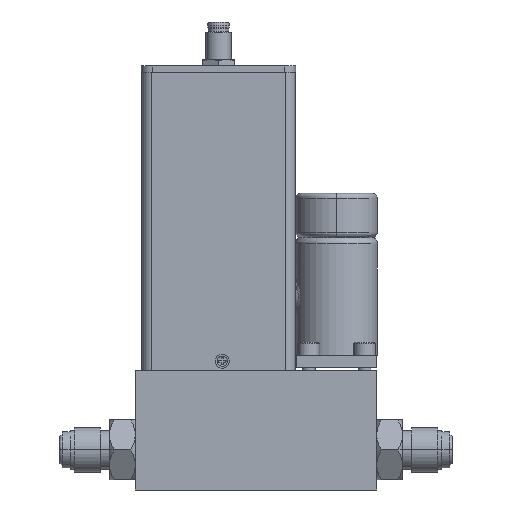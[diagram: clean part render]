
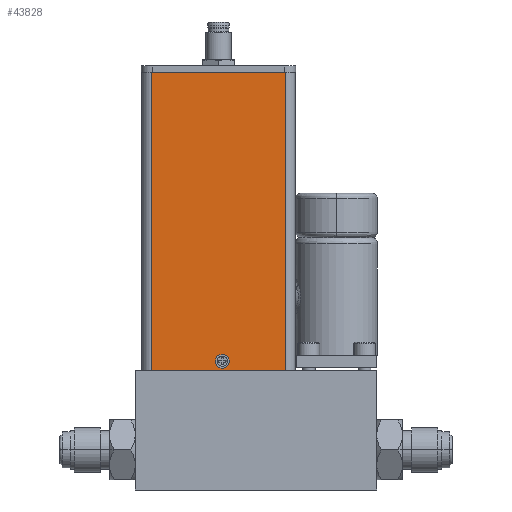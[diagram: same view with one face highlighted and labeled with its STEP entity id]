
A CAD part, front view. The second image highlights one B-rep face of the part: STEP entity #43828.
In plain terms, the highlighted planar face has unit normal (0, -1, 0).
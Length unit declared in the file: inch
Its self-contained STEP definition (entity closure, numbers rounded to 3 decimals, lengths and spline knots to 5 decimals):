
#9173 = EDGE_CURVE ( 'NONE', #198716, #66880, #59460, .T. ) ;
#13174 = PLANE ( 'NONE',  #23997 ) ;
#13809 = VECTOR ( 'NONE', #59724, 39.37008 ) ;
#16117 = DIRECTION ( 'NONE',  ( 0., -1., 0. ) ) ;
#19328 = EDGE_CURVE ( 'NONE', #97482, #191415, #35181, .T. ) ;
#23997 = AXIS2_PLACEMENT_3D ( 'NONE', #89932, #16117, #60457 ) ;
#24847 = CARTESIAN_POINT ( 'NONE',  ( 0.20236, 0.008, 5.19964 ) ) ;
#28531 = CARTESIAN_POINT ( 'NONE',  ( 1.85836, 0.008, 1.48511 ) ) ;
#28684 = EDGE_LOOP ( 'NONE', ( #139112, #199623 ) ) ;
#33894 = DIRECTION ( 'NONE',  ( 0., 0., 1. ) ) ;
#34167 = DIRECTION ( 'NONE',  ( -1., 0., 0. ) ) ;
#35181 = LINE ( 'NONE', #67479, #118116 ) ;
#43828 = ADVANCED_FACE ( 'NONE', ( #196097, #169859 ), #13174, .T. ) ;
#45124 = EDGE_LOOP ( 'NONE', ( #152514, #102462, #107705, #91724 ) ) ;
#58538 = EDGE_CURVE ( 'NONE', #66880, #198716, #166593, .T. ) ;
#59460 = CIRCLE ( 'NONE', #140468, 0.06299 ) ;
#59724 = DIRECTION ( 'NONE',  ( 0., 0., 1. ) ) ;
#60457 = DIRECTION ( 'NONE',  ( 0., 0., -1. ) ) ;
#61228 = DIRECTION ( 'NONE',  ( 0., 0., 1. ) ) ;
#64722 = CARTESIAN_POINT ( 'NONE',  ( 1.03036, 0.008, 1.48511 ) ) ;
#66880 = VERTEX_POINT ( 'NONE', #85422 ) ;
#67479 = CARTESIAN_POINT ( 'NONE',  ( 1.03036, 0.008, 5.19964 ) ) ;
#72549 = CARTESIAN_POINT ( 'NONE',  ( 1.07761, 0.008, 1.60311 ) ) ;
#85422 = CARTESIAN_POINT ( 'NONE',  ( 1.07761, 0.008, 1.54012 ) ) ;
#87661 = DIRECTION ( 'NONE',  ( 0., 1., 0. ) ) ;
#89932 = CARTESIAN_POINT ( 'NONE',  ( 1.03036, 0.008, 1.48511 ) ) ;
#91724 = ORIENTED_EDGE ( 'NONE', *, *, #178067, .T. ) ;
#97482 = VERTEX_POINT ( 'NONE', #134892 ) ;
#102462 = ORIENTED_EDGE ( 'NONE', *, *, #136511, .T. ) ;
#102618 = VECTOR ( 'NONE', #111407, 39.37008 ) ;
#105971 = VERTEX_POINT ( 'NONE', #164456 ) ;
#107705 = ORIENTED_EDGE ( 'NONE', *, *, #197422, .T. ) ;
#107767 = VECTOR ( 'NONE', #149041, 39.37008 ) ;
#111407 = DIRECTION ( 'NONE',  ( 1., 0., 0. ) ) ;
#111606 = CARTESIAN_POINT ( 'NONE',  ( 0.20236, 0.008, 1.48511 ) ) ;
#115958 = CARTESIAN_POINT ( 'NONE',  ( 1.07761, 0.008, 1.6661 ) ) ;
#118116 = VECTOR ( 'NONE', #34167, 39.37008 ) ;
#121630 = LINE ( 'NONE', #180326, #107767 ) ;
#134892 = CARTESIAN_POINT ( 'NONE',  ( 1.85836, 0.008, 5.19964 ) ) ;
#136511 = EDGE_CURVE ( 'NONE', #191415, #185648, #121630, .T. ) ;
#139112 = ORIENTED_EDGE ( 'NONE', *, *, #9173, .T. ) ;
#140468 = AXIS2_PLACEMENT_3D ( 'NONE', #142233, #172578, #33894 ) ;
#142233 = CARTESIAN_POINT ( 'NONE',  ( 1.07761, 0.008, 1.60311 ) ) ;
#147179 = AXIS2_PLACEMENT_3D ( 'NONE', #72549, #87661, #61228 ) ;
#149041 = DIRECTION ( 'NONE',  ( 0., 0., -1. ) ) ;
#152514 = ORIENTED_EDGE ( 'NONE', *, *, #19328, .T. ) ;
#156931 = LINE ( 'NONE', #64722, #102618 ) ;
#164456 = CARTESIAN_POINT ( 'NONE',  ( 1.85836, 0.008, 1.48511 ) ) ;
#166593 = CIRCLE ( 'NONE', #147179, 0.06299 ) ;
#169859 = FACE_BOUND ( 'NONE', #28684, .T. ) ;
#172578 = DIRECTION ( 'NONE',  ( 0., 1., 0. ) ) ;
#178067 = EDGE_CURVE ( 'NONE', #105971, #97482, #186208, .T. ) ;
#180326 = CARTESIAN_POINT ( 'NONE',  ( 0.20236, 0.008, 1.48511 ) ) ;
#185648 = VERTEX_POINT ( 'NONE', #111606 ) ;
#186208 = LINE ( 'NONE', #28531, #13809 ) ;
#191415 = VERTEX_POINT ( 'NONE', #24847 ) ;
#196097 = FACE_OUTER_BOUND ( 'NONE', #45124, .T. ) ;
#197422 = EDGE_CURVE ( 'NONE', #185648, #105971, #156931, .T. ) ;
#198716 = VERTEX_POINT ( 'NONE', #115958 ) ;
#199623 = ORIENTED_EDGE ( 'NONE', *, *, #58538, .T. ) ;
